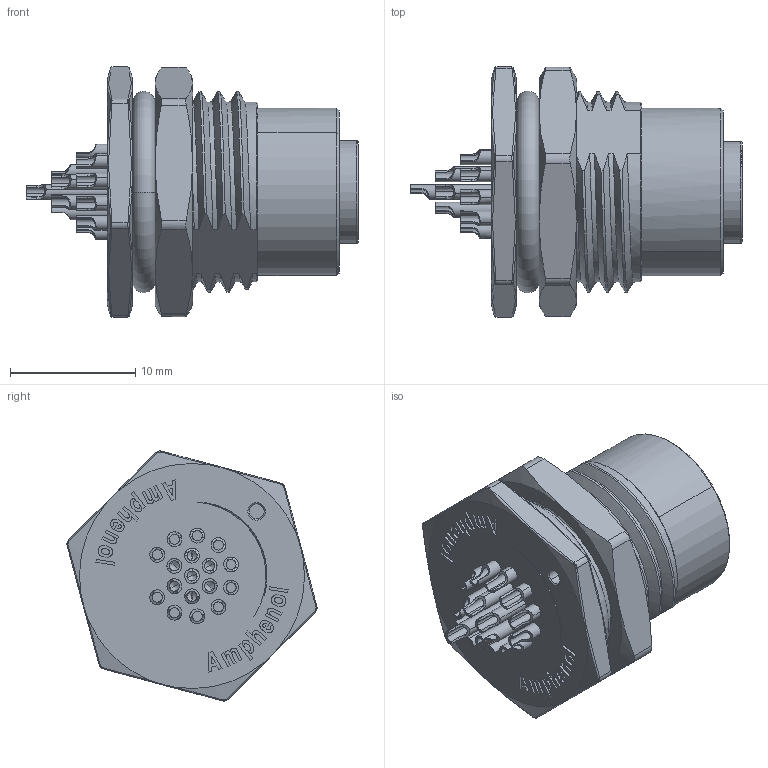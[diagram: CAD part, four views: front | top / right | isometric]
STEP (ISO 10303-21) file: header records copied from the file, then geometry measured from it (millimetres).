
FILE_DESCRIPTION((''),'2;1');
FILE_NAME('M12A-17PFFS-SF8002_SW0001','2021-09-22T',('K190165'),(''),'PRO/ENGINEER BY PARAMETRIC TECHNOLOGY CORPORATION, 2013050','PRO/ENGINEER BY PARAMETRIC TECHNOLOGY CORPORATION, 2013050','');
FILE_SCHEMA(('CONFIG_CONTROL_DESIGN'));
Length unit declared in the file: millimetre
Products named in the file (1): M12A-17PFFS-SF8002_SW0001
Bounding box: 26.5 x 19.96 x 19.96 mm (x, y, z)
Volume: 3189.4 mm3; surface area: 4167.6 mm2
Topology: 1 solids, 1 shells, 1101 faces, 3020 edges, 1953 vertices
Faces by surface type: plane 395, cylinder 313, cone 174, bspline 82, extrusion 80, torus 55, sphere 2
Entity records: 54611 total; most frequent: CARTESIAN_POINT 20030, ORIENTED_EDGE 5940, DIRECTION 4980, EDGE_CURVE 2970, VERTEX_POINT 1953, AXIS2_PLACEMENT_3D 1809, VECTOR 1362, LINE 1282
